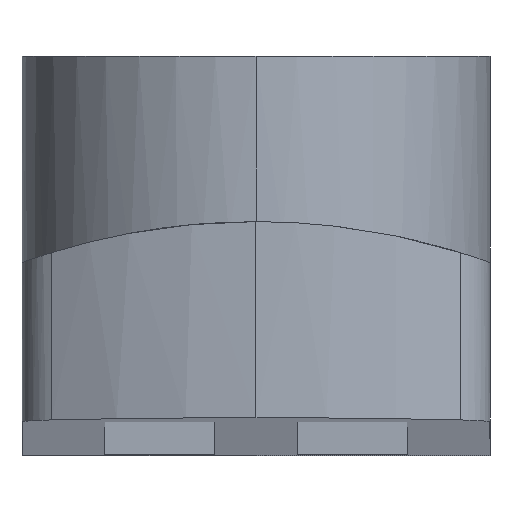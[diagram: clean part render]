
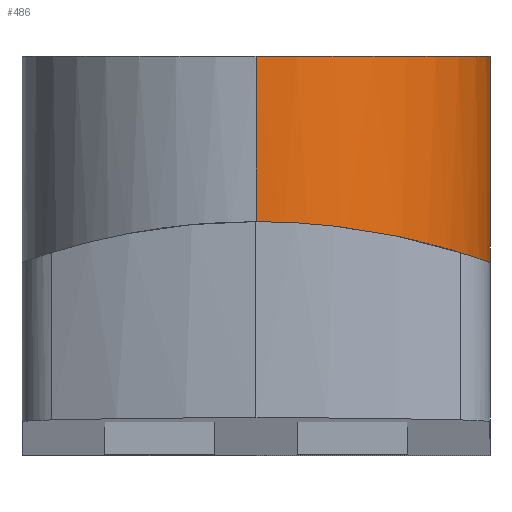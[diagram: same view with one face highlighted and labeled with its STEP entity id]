
A CAD part, left-side view. The second image highlights one B-rep face of the part: STEP entity #486.
In plain terms, the highlighted cylindrical face has radius 8.5 mm (diameter 17 mm), a partial arc.
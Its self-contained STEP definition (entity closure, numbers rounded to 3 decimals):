
#3 =( BOUNDED_CURVE ( )  B_SPLINE_CURVE ( 3, ( #468, #498, #508, #512 ),
 .UNSPECIFIED., .F., .F. ) 
 B_SPLINE_CURVE_WITH_KNOTS ( ( 4, 4 ),
 ( 1.571, 3.142 ),
 .UNSPECIFIED. ) 
 CURVE ( )  GEOMETRIC_REPRESENTATION_ITEM ( )  RATIONAL_B_SPLINE_CURVE ( ( 1., 0.805, 0.805, 1. ) ) 
 REPRESENTATION_ITEM ( '' )  );
#45 = EDGE_CURVE ( 'NONE', #226, #339, #736, .T. ) ;
#48 = VERTEX_POINT ( 'NONE', #902 ) ;
#81 = EDGE_LOOP ( 'NONE', ( #283, #99, #1719, #320, #1718, #1699 ) ) ;
#92 = CYLINDRICAL_SURFACE ( 'NONE', #1149, 8.5 ) ;
#99 = ORIENTED_EDGE ( 'NONE', *, *, #491, .F. ) ;
#221 = LINE ( 'NONE', #1551, #930 ) ;
#226 = VERTEX_POINT ( 'NONE', #927 ) ;
#283 = ORIENTED_EDGE ( 'NONE', *, *, #1102, .F. ) ;
#319 = B_SPLINE_CURVE_WITH_KNOTS ( 'NONE', 3,
 ( #836, #831, #866, #873, #875, #879, #899, #911, #923, #928, #934, #937, #940, #953, #963, #976, #991, #998, #999, #1001, #1009, #1013, #1028, #1041 ),
 .UNSPECIFIED., .F., .F.,
 ( 4, 2, 2, 2, 2, 2, 2, 2, 2, 2, 2, 4 ),
 ( 0., 0.002, 0.003, 0.005, 0.006, 0.007, 0.008, 0.008, 0.01, 0.012, 0.013, 0.014 ),
 .UNSPECIFIED. ) ;
#320 = ORIENTED_EDGE ( 'NONE', *, *, #626, .F. ) ;
#339 = VERTEX_POINT ( 'NONE', #1223 ) ;
#348 = CARTESIAN_POINT ( 'NONE',  ( 8.5, 0., 14.5 ) ) ;
#431 = CIRCLE ( 'NONE', #1056, 8.5 ) ;
#442 = FACE_OUTER_BOUND ( 'NONE', #81, .T. ) ;
#443 = DIRECTION ( 'NONE',  ( 0., 0., 1. ) ) ;
#451 = CARTESIAN_POINT ( 'NONE',  ( -8.5, 0., 14.5 ) ) ;
#468 = CARTESIAN_POINT ( 'NONE',  ( 0., -8.5, 0.744 ) ) ;
#486 = ADVANCED_FACE ( 'NONE', ( #442 ), #92, .T. ) ;
#491 = EDGE_CURVE ( 'NONE', #521, #877, #431, .T. ) ;
#498 = CARTESIAN_POINT ( 'NONE',  ( 4.979, -8.5, 1.179 ) ) ;
#508 = CARTESIAN_POINT ( 'NONE',  ( 8.5, -4.979, 1.487 ) ) ;
#512 = CARTESIAN_POINT ( 'NONE',  ( 8.5, 0., 1.487 ) ) ;
#521 = VERTEX_POINT ( 'NONE', #451 ) ;
#582 = DIRECTION ( 'NONE',  ( 0., 0., -1. ) ) ;
#626 = EDGE_CURVE ( 'NONE', #226, #48, #319, .T. ) ;
#697 = EDGE_CURVE ( 'NONE', #521, #48, #221, .T. ) ;
#711 = CARTESIAN_POINT ( 'NONE',  ( 8.5, 0., 1.487 ) ) ;
#736 = LINE ( 'NONE', #1162, #1593 ) ;
#831 = CARTESIAN_POINT ( 'NONE',  ( -0.573, -8.5, 5.5 ) ) ;
#836 = CARTESIAN_POINT ( 'NONE',  ( 0., -8.5, 5.5 ) ) ;
#866 = CARTESIAN_POINT ( 'NONE',  ( -1.136, -8.443, 5.523 ) ) ;
#873 = CARTESIAN_POINT ( 'NONE',  ( -2.242, -8.218, 5.613 ) ) ;
#875 = CARTESIAN_POINT ( 'NONE',  ( -2.79, -8.049, 5.681 ) ) ;
#877 = VERTEX_POINT ( 'NONE', #348 ) ;
#879 = CARTESIAN_POINT ( 'NONE',  ( -3.822, -7.613, 5.855 ) ) ;
#899 = CARTESIAN_POINT ( 'NONE',  ( -4.311, -7.347, 5.961 ) ) ;
#902 = CARTESIAN_POINT ( 'NONE',  ( -8.5, 0., 8. ) ) ;
#911 = CARTESIAN_POINT ( 'NONE',  ( -5.003, -6.878, 6.145 ) ) ;
#923 = CARTESIAN_POINT ( 'NONE',  ( -5.226, -6.71, 6.21 ) ) ;
#927 = CARTESIAN_POINT ( 'NONE',  ( 0., -8.5, 5.5 ) ) ;
#928 = CARTESIAN_POINT ( 'NONE',  ( -5.65, -6.357, 6.346 ) ) ;
#930 = VECTOR ( 'NONE', #1569, 1000. ) ;
#931 = EDGE_CURVE ( 'NONE', #339, #1290, #3, .T. ) ;
#934 = CARTESIAN_POINT ( 'NONE',  ( -5.851, -6.171, 6.417 ) ) ;
#937 = CARTESIAN_POINT ( 'NONE',  ( -6.235, -5.783, 6.564 ) ) ;
#940 = CARTESIAN_POINT ( 'NONE',  ( -6.418, -5.58, 6.64 ) ) ;
#953 = CARTESIAN_POINT ( 'NONE',  ( -6.763, -5.156, 6.796 ) ) ;
#963 = CARTESIAN_POINT ( 'NONE',  ( -6.927, -4.934, 6.876 ) ) ;
#976 = CARTESIAN_POINT ( 'NONE',  ( -7.381, -4.252, 7.117 ) ) ;
#991 = CARTESIAN_POINT ( 'NONE',  ( -7.636, -3.774, 7.278 ) ) ;
#998 = CARTESIAN_POINT ( 'NONE',  ( -8.056, -2.767, 7.58 ) ) ;
#999 = CARTESIAN_POINT ( 'NONE',  ( -8.221, -2.232, 7.723 ) ) ;
#1001 = CARTESIAN_POINT ( 'NONE',  ( -8.386, -1.412, 7.881 ) ) ;
#1009 = CARTESIAN_POINT ( 'NONE',  ( -8.429, -1.135, 7.924 ) ) ;
#1013 = CARTESIAN_POINT ( 'NONE',  ( -8.485, -0.573, 7.984 ) ) ;
#1028 = CARTESIAN_POINT ( 'NONE',  ( -8.5, -0.285, 8. ) ) ;
#1041 = CARTESIAN_POINT ( 'NONE',  ( -8.5, 0., 8. ) ) ;
#1056 = AXIS2_PLACEMENT_3D ( 'NONE', #1269, #443, #1402 ) ;
#1102 = EDGE_CURVE ( 'NONE', #877, #1290, #1668, .T. ) ;
#1149 = AXIS2_PLACEMENT_3D ( 'NONE', #1264, #582, #1529 ) ;
#1162 = CARTESIAN_POINT ( 'NONE',  ( 0., -8.5, 8.5 ) ) ;
#1223 = CARTESIAN_POINT ( 'NONE',  ( 0., -8.5, 0.744 ) ) ;
#1264 = CARTESIAN_POINT ( 'NONE',  ( 0., 0., 8.5 ) ) ;
#1269 = CARTESIAN_POINT ( 'NONE',  ( 0., 0., 14.5 ) ) ;
#1290 = VERTEX_POINT ( 'NONE', #711 ) ;
#1311 = DIRECTION ( 'NONE',  ( 0., 0., -1. ) ) ;
#1400 = CARTESIAN_POINT ( 'NONE',  ( 8.5, 0., 8.5 ) ) ;
#1402 = DIRECTION ( 'NONE',  ( 1., 0., 0. ) ) ;
#1415 = DIRECTION ( 'NONE',  ( 0., 0., -1. ) ) ;
#1529 = DIRECTION ( 'NONE',  ( -1., 0., 0. ) ) ;
#1551 = CARTESIAN_POINT ( 'NONE',  ( -8.5, 0., 8.5 ) ) ;
#1569 = DIRECTION ( 'NONE',  ( 0., 0., -1. ) ) ;
#1593 = VECTOR ( 'NONE', #1311, 1000. ) ;
#1668 = LINE ( 'NONE', #1400, #1708 ) ;
#1699 = ORIENTED_EDGE ( 'NONE', *, *, #931, .T. ) ;
#1708 = VECTOR ( 'NONE', #1415, 1000. ) ;
#1718 = ORIENTED_EDGE ( 'NONE', *, *, #45, .T. ) ;
#1719 = ORIENTED_EDGE ( 'NONE', *, *, #697, .T. ) ;
